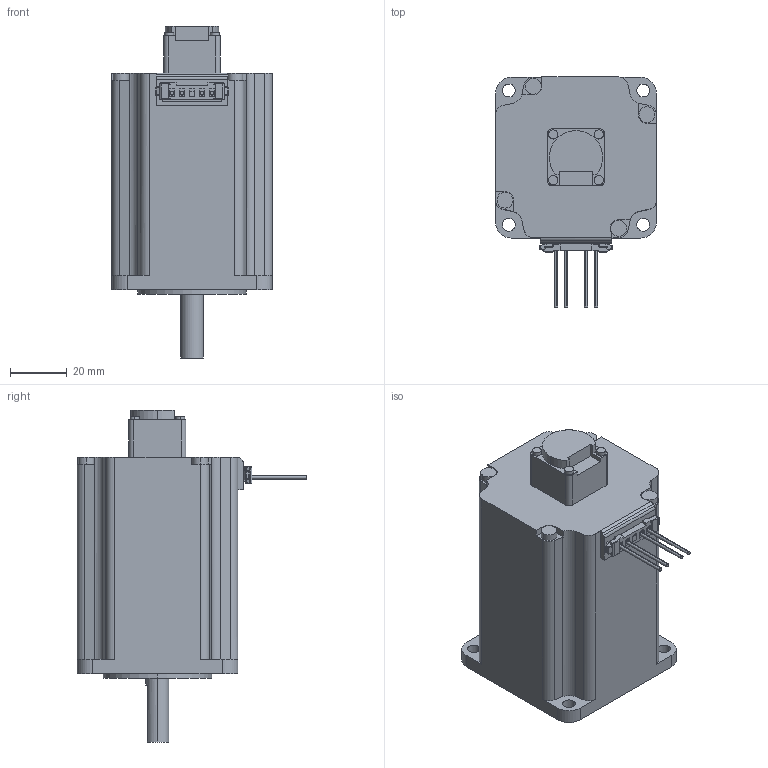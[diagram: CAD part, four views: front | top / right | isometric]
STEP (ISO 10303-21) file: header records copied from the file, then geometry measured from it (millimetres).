
FILE_DESCRIPTION (( 'STEP AP203' ), '1' );
FILE_NAME ('B1327.step', '2022-10-21T04:30:27', ( '' ), ( '' ), 'SwSTEP 2.0', 'SolidWorks 2020', '' );
FILE_SCHEMA (( 'CONFIG_CONTROL_DESIGN' ));
Length unit declared in the file: millimetre
Products named in the file (1): B1327
Bounding box: 56.4 x 80.7 x 116.5 mm (x, y, z)
Volume: 224223.5 mm3; surface area: 25667.9 mm2
Topology: 2 solids, 12 shells, 484 faces, 1234 edges, 794 vertices
Faces by surface type: plane 339, cylinder 121, sphere 12, bspline 8, torus 4
Entity records: 14490 total; most frequent: CARTESIAN_POINT 2728, ORIENTED_EDGE 2448, DIRECTION 2357, EDGE_CURVE 1224, LINE 947, VECTOR 947, VERTEX_POINT 792, AXIS2_PLACEMENT_3D 705
